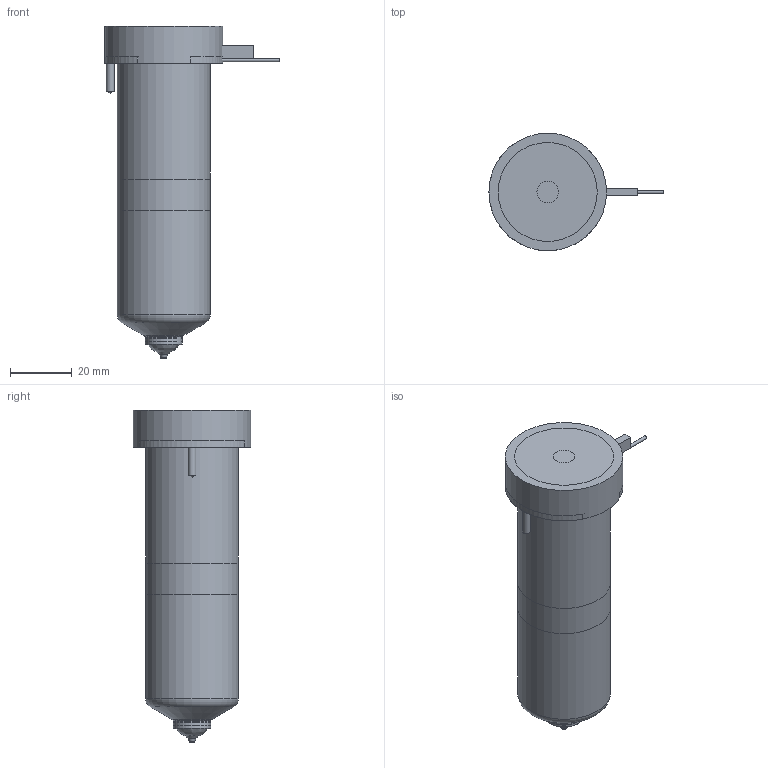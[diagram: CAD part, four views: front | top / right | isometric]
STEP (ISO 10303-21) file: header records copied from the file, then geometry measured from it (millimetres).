
FILE_DESCRIPTION(/* description */ (''),/* implementation_level */ '2;1');
FILE_NAME(/* name */ 'BXOV16095_200C_b',/* time_stamp */ '2007-01-18T08:47:45+13:00',/* author */ (''),/* organization */ (''),/* preprocessor_version */ 'ST-DEVELOPER v9',/* originating_system */ 'UGS - NX 4.0',/* authorisation */ '');
FILE_SCHEMA (('CONFIG_CONTROL_DESIGN'));
Length unit declared in the file: millimetre
Products named in the file (1): BXOV16095_200C_b
Bounding box: 56.25 x 38 x 107.25 mm (x, y, z)
Volume: 137309.9 mm3; surface area: 26110.4 mm2
Topology: 6 solids, 6 shells, 86 faces, 170 edges, 108 vertices
Faces by surface type: plane 37, cylinder 25, cone 13, torus 8, bspline 3
Full cylindrical faces by diameter (mm): 1 x3, 2.5 x3, 7 x1, 7.8 x1, 8 x1, 11.61 x1, 12.01 x2, 14.8 x1, 25.4 x1, 30 x2, 38 x1
Entity records: 2138 total; most frequent: CARTESIAN_POINT 458, DIRECTION 354, ORIENTED_EDGE 244, AXIS2_PLACEMENT_3D 158, EDGE_LOOP 136, EDGE_CURVE 122, VERTEX_POINT 99, ADVANCED_FACE 86
